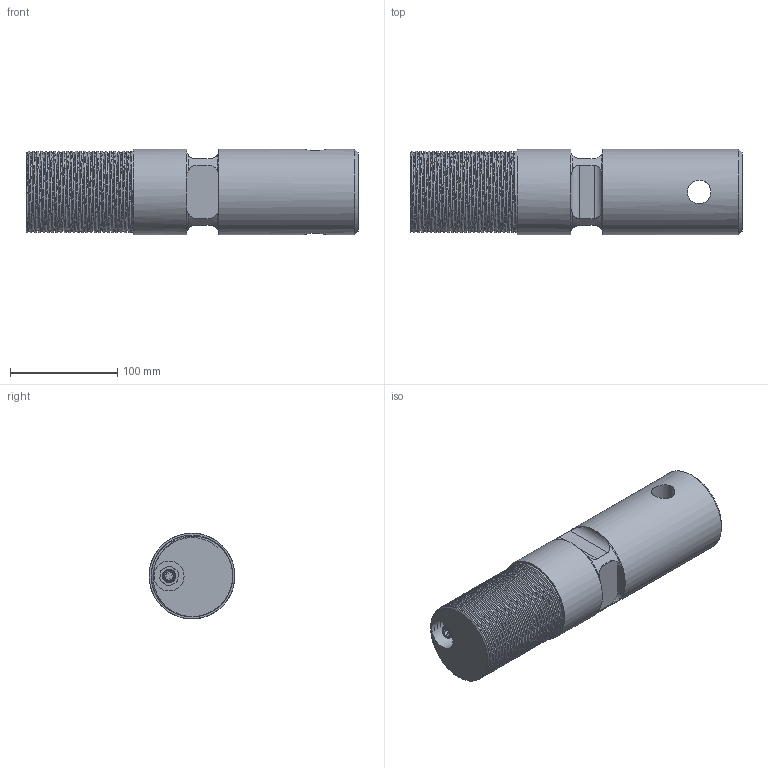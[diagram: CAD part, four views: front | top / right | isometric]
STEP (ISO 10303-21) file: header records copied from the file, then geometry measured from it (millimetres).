
FILE_DESCRIPTION(/* description */ ('Alibre Inc.'),/* implementation_level */ '2;1');
FILE_NAME(/* name */ 'export0',/* time_stamp */ '2018-11-08T16:19:38+01:00',/* author */ (''),/* organization */ (''),/* preprocessor_version */ 'ST-DEVELOPER v17',/* originating_system */ 'Alibre',/* authorisation */ '');
FILE_SCHEMA (('CONFIG_CONTROL_DESIGN'));
Length unit declared in the file: millimetre
Products named in the file (6): ID_1; ID_2; ID_3
Bounding box: 310 x 80 x 80 mm (x, y, z)
Volume: 1412926.3 mm3; surface area: 111866.3 mm2
Topology: 8 solids, 8 shells, 158 faces, 353 edges, 216 vertices
Faces by surface type: plane 62, cylinder 56, bspline 25, torus 9, cone 6
Full cylindrical faces by diameter (mm): 0.5 x8, 8 x2, 10 x3, 11.5 x1, 13 x1, 14.376 x1, 22 x1, 28 x1, 69 x1, 80 x2
Entity records: 22202 total; most frequent: CARTESIAN_POINT 18879, ORIENTED_EDGE 628, DIRECTION 381, EDGE_CURVE 309, VERTEX_POINT 203, FACE_BOUND 203, EDGE_LOOP 201, AXIS2_PLACEMENT_3D 172
